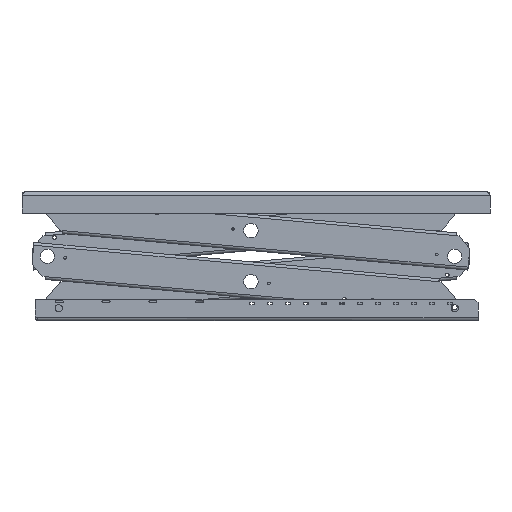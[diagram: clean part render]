
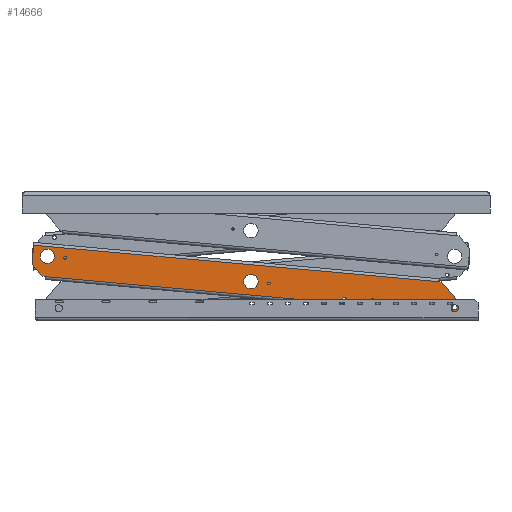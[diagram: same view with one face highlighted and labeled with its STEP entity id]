
A CAD part, front view. The second image highlights one B-rep face of the part: STEP entity #14666.
In plain terms, the highlighted planar face has unit normal (0, -1, 0) as drawn and (-1, 0, 0) by its records, which use the part's own axes.
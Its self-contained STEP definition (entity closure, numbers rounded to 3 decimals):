
#427=FACE_BOUND('',#3474,.T.);
#428=FACE_BOUND('',#3475,.T.);
#429=FACE_BOUND('',#3476,.T.);
#430=FACE_BOUND('',#3477,.T.);
#431=FACE_BOUND('',#3478,.T.);
#432=FACE_BOUND('',#3479,.T.);
#433=FACE_BOUND('',#3480,.T.);
#914=CIRCLE('',#15964,2.);
#946=CIRCLE('',#16001,2.);
#957=CIRCLE('',#16024,2.);
#958=CIRCLE('',#16027,2.);
#960=CIRCLE('',#16032,2.);
#962=CIRCLE('',#16037,5.);
#964=CIRCLE('',#16041,3.7);
#966=CIRCLE('',#16045,3.7);
#968=CIRCLE('',#16049,3.7);
#970=CIRCLE('',#16053,7.1);
#972=CIRCLE('',#16057,20.);
#974=CIRCLE('',#16061,20.);
#981=CIRCLE('',#16073,2.);
#1746=PLANE('',#16081);
#2469=FACE_OUTER_BOUND('',#3473,.T.);
#3473=EDGE_LOOP('',(#13529,#13530,#13531,#13532,#13533,#13534,#13535,#13536,
#13537,#13538,#13539,#13540,#13541,#13542,#13543));
#3474=EDGE_LOOP('',(#13544));
#3475=EDGE_LOOP('',(#13545));
#3476=EDGE_LOOP('',(#13546));
#3477=EDGE_LOOP('',(#13547));
#3478=EDGE_LOOP('',(#13548));
#3479=EDGE_LOOP('',(#13549));
#3480=EDGE_LOOP('',(#13550));
#4884=LINE('',#24759,#6274);
#4902=LINE('',#24832,#6292);
#4922=LINE('',#24981,#6312);
#4931=LINE('',#25005,#6321);
#4940=LINE('',#25105,#6330);
#4943=LINE('',#25111,#6333);
#4948=LINE('',#25120,#6338);
#4949=LINE('',#25121,#6339);
#4950=LINE('',#25122,#6340);
#6274=VECTOR('',#19690,10.);
#6292=VECTOR('',#19754,10.);
#6312=VECTOR('',#19820,10.);
#6321=VECTOR('',#19845,10.);
#6330=VECTOR('',#19936,10.);
#6333=VECTOR('',#19945,10.);
#6338=VECTOR('',#19958,10.);
#6339=VECTOR('',#19959,10.);
#6340=VECTOR('',#19960,10.);
#7576=VERTEX_POINT('',#24707);
#7577=VERTEX_POINT('',#24708);
#7600=VERTEX_POINT('',#24758);
#7630=VERTEX_POINT('',#24824);
#7631=VERTEX_POINT('',#24825);
#7632=VERTEX_POINT('',#24830);
#7650=VERTEX_POINT('',#24938);
#7656=VERTEX_POINT('',#24974);
#7657=VERTEX_POINT('',#24975);
#7658=VERTEX_POINT('',#24980);
#7659=VERTEX_POINT('',#24984);
#7663=VERTEX_POINT('',#24998);
#7664=VERTEX_POINT('',#25000);
#7665=VERTEX_POINT('',#25004);
#7667=VERTEX_POINT('',#25012);
#7669=VERTEX_POINT('',#25018);
#7671=VERTEX_POINT('',#25024);
#7673=VERTEX_POINT('',#25030);
#7675=VERTEX_POINT('',#25036);
#7677=VERTEX_POINT('',#25042);
#7679=VERTEX_POINT('',#25048);
#7691=VERTEX_POINT('',#25096);
#9525=EDGE_CURVE('',#7576,#7577,#914,.T.);
#9550=EDGE_CURVE('',#7600,#7577,#4884,.T.);
#9583=EDGE_CURVE('',#7630,#7631,#946,.T.);
#9587=EDGE_CURVE('',#7632,#7630,#4902,.T.);
#9623=EDGE_CURVE('',#7656,#7657,#957,.T.);
#9626=EDGE_CURVE('',#7658,#7657,#4922,.T.);
#9628=EDGE_CURVE('',#7658,#7659,#958,.T.);
#9636=EDGE_CURVE('',#7663,#7664,#960,.T.);
#9638=EDGE_CURVE('',#7665,#7664,#4931,.T.);
#9642=EDGE_CURVE('',#7667,#7667,#962,.T.);
#9644=EDGE_CURVE('',#7669,#7669,#964,.T.);
#9646=EDGE_CURVE('',#7671,#7671,#966,.T.);
#9648=EDGE_CURVE('',#7673,#7673,#968,.T.);
#9650=EDGE_CURVE('',#7675,#7675,#970,.T.);
#9652=EDGE_CURVE('',#7677,#7677,#972,.T.);
#9654=EDGE_CURVE('',#7679,#7679,#974,.T.);
#9670=EDGE_CURVE('',#7691,#7665,#981,.T.);
#9672=EDGE_CURVE('',#7656,#7650,#4940,.T.);
#9675=EDGE_CURVE('',#7576,#7631,#4943,.T.);
#9680=EDGE_CURVE('',#7691,#7632,#4948,.T.);
#9681=EDGE_CURVE('',#7663,#7659,#4949,.T.);
#9682=EDGE_CURVE('',#7650,#7600,#4950,.T.);
#13529=ORIENTED_EDGE('',*,*,#9525,.F.);
#13530=ORIENTED_EDGE('',*,*,#9675,.T.);
#13531=ORIENTED_EDGE('',*,*,#9583,.F.);
#13532=ORIENTED_EDGE('',*,*,#9587,.F.);
#13533=ORIENTED_EDGE('',*,*,#9680,.F.);
#13534=ORIENTED_EDGE('',*,*,#9670,.T.);
#13535=ORIENTED_EDGE('',*,*,#9638,.T.);
#13536=ORIENTED_EDGE('',*,*,#9636,.F.);
#13537=ORIENTED_EDGE('',*,*,#9681,.T.);
#13538=ORIENTED_EDGE('',*,*,#9628,.F.);
#13539=ORIENTED_EDGE('',*,*,#9626,.T.);
#13540=ORIENTED_EDGE('',*,*,#9623,.F.);
#13541=ORIENTED_EDGE('',*,*,#9672,.T.);
#13542=ORIENTED_EDGE('',*,*,#9682,.T.);
#13543=ORIENTED_EDGE('',*,*,#9550,.T.);
#13544=ORIENTED_EDGE('',*,*,#9642,.T.);
#13545=ORIENTED_EDGE('',*,*,#9644,.T.);
#13546=ORIENTED_EDGE('',*,*,#9646,.T.);
#13547=ORIENTED_EDGE('',*,*,#9648,.T.);
#13548=ORIENTED_EDGE('',*,*,#9650,.T.);
#13549=ORIENTED_EDGE('',*,*,#9652,.T.);
#13550=ORIENTED_EDGE('',*,*,#9654,.T.);
#14666=ADVANCED_FACE('',(#2469,#427,#428,#429,#430,#431,#432,#433),#1746,
 .T.);
#15964=AXIS2_PLACEMENT_3D('',#24709,#19647,#19648);
#16001=AXIS2_PLACEMENT_3D('',#24826,#19747,#19748);
#16024=AXIS2_PLACEMENT_3D('',#24976,#19814,#19815);
#16027=AXIS2_PLACEMENT_3D('',#24985,#19824,#19825);
#16032=AXIS2_PLACEMENT_3D('',#25001,#19840,#19841);
#16037=AXIS2_PLACEMENT_3D('',#25013,#19854,#19855);
#16041=AXIS2_PLACEMENT_3D('',#25019,#19862,#19863);
#16045=AXIS2_PLACEMENT_3D('',#25025,#19870,#19871);
#16049=AXIS2_PLACEMENT_3D('',#25031,#19878,#19879);
#16053=AXIS2_PLACEMENT_3D('',#25037,#19886,#19887);
#16057=AXIS2_PLACEMENT_3D('',#25043,#19894,#19895);
#16061=AXIS2_PLACEMENT_3D('',#25049,#19902,#19903);
#16073=AXIS2_PLACEMENT_3D('',#25097,#19932,#19933);
#16081=AXIS2_PLACEMENT_3D('',#25119,#19956,#19957);
#19647=DIRECTION('center_axis',(1.,0.,0.));
#19648=DIRECTION('ref_axis',(0.,-0.383,-0.924));
#19690=DIRECTION('',(0.,-1.,0.));
#19747=DIRECTION('center_axis',(1.,0.,0.));
#19748=DIRECTION('ref_axis',(0.,-0.924,-0.383));
#19754=DIRECTION('',(0.,0.,-1.));
#19814=DIRECTION('center_axis',(1.,0.,0.));
#19815=DIRECTION('ref_axis',(0.,0.924,0.383));
#19820=DIRECTION('',(0.,0.707,-0.707));
#19824=DIRECTION('center_axis',(1.,0.,0.));
#19825=DIRECTION('ref_axis',(0.,0.383,0.924));
#19840=DIRECTION('center_axis',(1.,0.,0.));
#19841=DIRECTION('ref_axis',(0.,-0.707,0.707));
#19845=DIRECTION('',(0.,0.,1.));
#19854=DIRECTION('center_axis',(1.,0.,0.));
#19855=DIRECTION('ref_axis',(0.,0.,-1.));
#19862=DIRECTION('center_axis',(1.,0.,0.));
#19863=DIRECTION('ref_axis',(0.,0.,-1.));
#19870=DIRECTION('center_axis',(1.,0.,0.));
#19871=DIRECTION('ref_axis',(0.,0.,-1.));
#19878=DIRECTION('center_axis',(1.,0.,0.));
#19879=DIRECTION('ref_axis',(0.,0.,-1.));
#19886=DIRECTION('center_axis',(1.,0.,0.));
#19887=DIRECTION('ref_axis',(0.,0.,-1.));
#19894=DIRECTION('center_axis',(1.,0.,0.));
#19895=DIRECTION('ref_axis',(0.,0.,-1.));
#19902=DIRECTION('center_axis',(1.,0.,0.));
#19903=DIRECTION('ref_axis',(0.,0.,-1.));
#19932=DIRECTION('center_axis',(1.,0.,0.));
#19933=DIRECTION('ref_axis',(0.,0.,
-1.));
#19936=DIRECTION('',(0.,0.,-1.));
#19945=DIRECTION('',(0.,-0.707,0.707));
#19956=DIRECTION('center_axis',(-1.,0.,0.));
#19957=DIRECTION('ref_axis',(0.,0.,1.));
#19958=DIRECTION('',(0.,0.,-1.));
#19959=DIRECTION('',(0.,1.,0.));
#19960=DIRECTION('',(0.,0.,-1.));
#24707=CARTESIAN_POINT('',(-30.,-10.586,-596.914));
#24708=CARTESIAN_POINT('',(-30.,-9.172,-597.5));
#24709=CARTESIAN_POINT('Origin',(-30.,-9.172,-595.5));
#24758=CARTESIAN_POINT('',(-30.,42.,-597.5));
#24759=CARTESIAN_POINT('',(-30.,-42.,-597.5));
#24824=CARTESIAN_POINT('',(-30.,-42.,-564.672));
#24825=CARTESIAN_POINT('',(-30.,-41.414,-566.086));
#24826=CARTESIAN_POINT('Origin',(-30.,-40.,-564.672));
#24830=CARTESIAN_POINT('',(-30.,-42.,-559.5));
#24832=CARTESIAN_POINT('',(-30.,-42.,0.));
#24938=CARTESIAN_POINT('',(-30.,42.,534.5));
#24974=CARTESIAN_POINT('',(-30.,42.,539.672));
#24975=CARTESIAN_POINT('',(-30.,41.414,541.086));
#24976=CARTESIAN_POINT('Origin',(-30.,40.,539.672));
#24980=CARTESIAN_POINT('',(-30.,-14.414,596.914));
#24981=CARTESIAN_POINT('',(-30.,127.625,454.875));
#24984=CARTESIAN_POINT('',(-30.,-15.828,597.5));
#24985=CARTESIAN_POINT('Origin',(-30.,-15.828,595.5));
#24998=CARTESIAN_POINT('',(-30.,-39.,597.5));
#25000=CARTESIAN_POINT('',(-30.,-41.,595.5));
#25001=CARTESIAN_POINT('Origin',(-30.,-39.,595.5));
#25004=CARTESIAN_POINT('',(-30.,-41.,549.5));
#25005=CARTESIAN_POINT('',(-30.,-41.,274.75));
#25012=CARTESIAN_POINT('',(-30.,-30.,270.5));
#25013=CARTESIAN_POINT('Origin',(-30.,-30.,275.5));
#25018=CARTESIAN_POINT('',(-30.,15.,-511.2));
#25019=CARTESIAN_POINT('Origin',(-30.,15.,-507.5));
#25024=CARTESIAN_POINT('',(-30.,-5.,58.8));
#25025=CARTESIAN_POINT('Origin',(-30.,-5.,62.5));
#25030=CARTESIAN_POINT('',(-30.,-25.,348.8));
#25031=CARTESIAN_POINT('Origin',(-30.,-25.,352.5));
#25036=CARTESIAN_POINT('',(-30.,-25.,575.4));
#25037=CARTESIAN_POINT('Origin',(-30.,-25.,582.5));
#25042=CARTESIAN_POINT('',(-30.,15.,-577.5));
#25043=CARTESIAN_POINT('Origin',(-30.,15.,-557.5));
#25048=CARTESIAN_POINT('',(-30.,-5.,-7.5));
#25049=CARTESIAN_POINT('Origin',(-30.,-5.,12.5));
#25096=CARTESIAN_POINT('',(-30.,-42.,547.768));
#25097=CARTESIAN_POINT('Origin',(-30.,-43.,549.5));
#25105=CARTESIAN_POINT('',(-30.,42.,0.));
#25111=CARTESIAN_POINT('',(-30.,-167.375,-440.125));
#25119=CARTESIAN_POINT('Origin',(-30.,-42.,0.));
#25120=CARTESIAN_POINT('',(-30.,-42.,0.));
#25121=CARTESIAN_POINT('',(-30.,-42.,597.5));
#25122=CARTESIAN_POINT('',(-30.,42.,0.));
